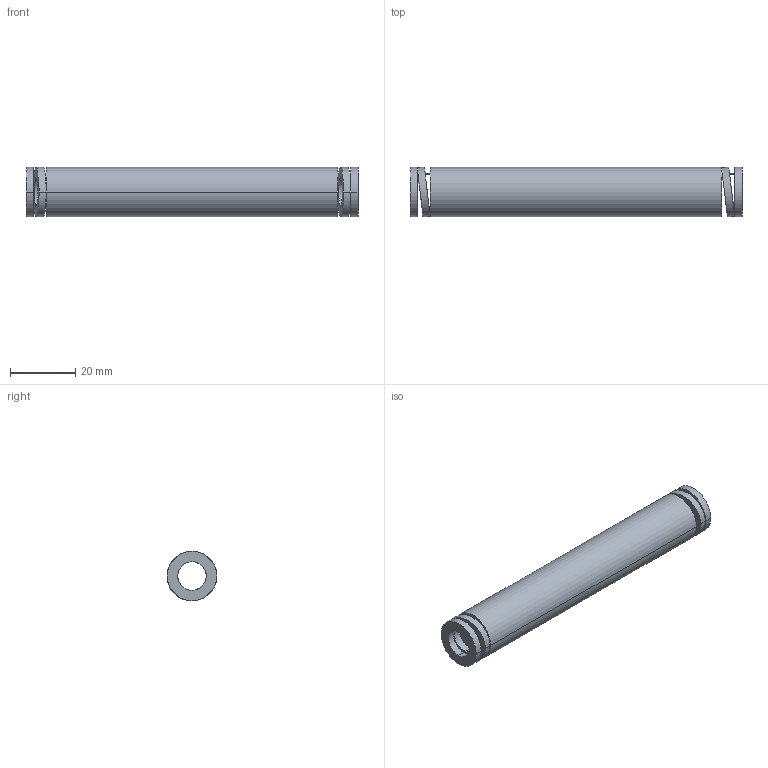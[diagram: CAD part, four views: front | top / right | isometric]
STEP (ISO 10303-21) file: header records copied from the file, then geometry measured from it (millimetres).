
FILE_DESCRIPTION(('CATIA V5 STEP Exchange'),'2;1');
FILE_NAME('C:\Users\Utente\Desktop\IO LAVORO\3D X SITO CF\X SITO\3D files 392B\392-B16-102.stp','2021-08-12T14:03:39+00:00',('none'),('none'),'CATIA Version 5 Release 20 GA (IN-10)','CATIA V5 STEP AP203','none');
FILE_SCHEMA(('CONFIG_CONTROL_DESIGN'));
Length unit declared in the file: millimetre
Products named in the file (1): 392-B16-102
Bounding box: 102 x 15.35 x 15.2 mm (x, y, z)
Volume: 11852.9 mm3; surface area: 8616.7 mm2
Topology: 1 solids, 1 shells, 38 faces, 92 edges, 64 vertices
Faces by surface type: cylinder 28, plane 10
Entity records: 1596 total; most frequent: CARTESIAN_POINT 709, ORIENTED_EDGE 184, DIRECTION 128, EDGE_CURVE 92, VERTEX_POINT 64, AXIS2_PLACEMENT_3D 63, EDGE_LOOP 56, B_SPLINE_CURVE_WITH_KNOTS 40
